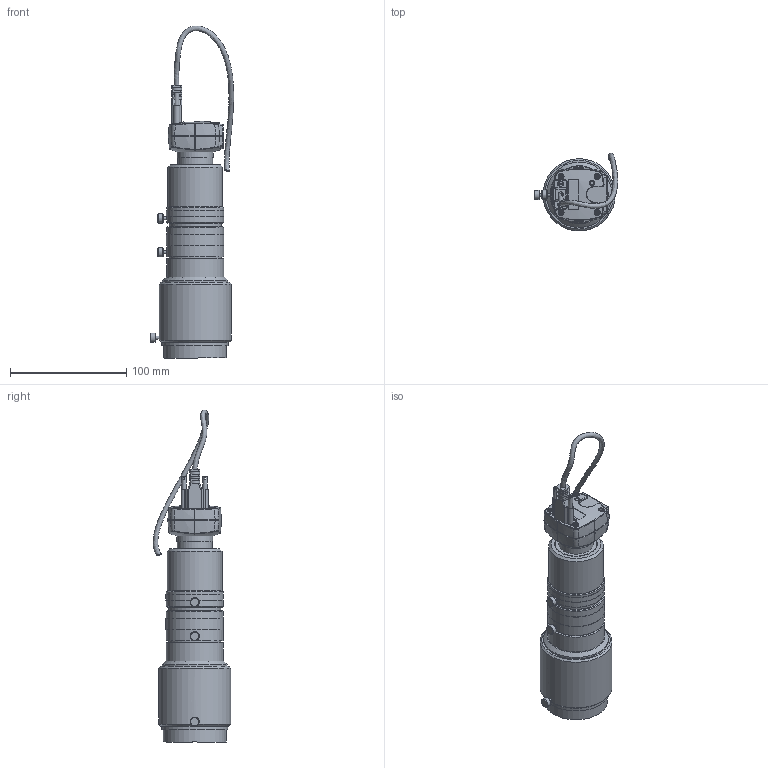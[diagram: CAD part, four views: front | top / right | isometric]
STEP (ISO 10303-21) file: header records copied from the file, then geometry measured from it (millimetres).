
FILE_DESCRIPTION(/* description */ (''),/* implementation_level */ '2;1');
FILE_NAME(/* name */ '\\SERVEUR-09\Entreprise\Bureau-Technique\Produits Web\videos\optiques\MA730-Z6-020.stp',/* time_stamp */ '2018-10-01T15:16:35+02:00',/* author */ ('ms'),/* organization */ ('Marcel Aubert'),/* preprocessor_version */ 'ST-DEVELOPER v17',/* originating_system */ 'Autodesk Inventor 2019',/* authorisation */ '');
FILE_SCHEMA (('AUTOMOTIVE_DESIGN { 1 0 10303 214 3 1 1 }'));
Length unit declared in the file: millimetre
Products named in the file (1): Pièce2
Bounding box: 71.58 x 66.65 x 285.3 mm (x, y, z)
Volume: 417833.1 mm3; surface area: 50165.5 mm2
Topology: 1 solids, 8 shells, 650 faces, 1757 edges, 1179 vertices
Faces by surface type: plane 232, cylinder 198, bspline 125, torus 39, cone 37, sphere 19
Full cylindrical faces by diameter (mm): 1.88 x4, 2 x2, 2.3 x2, 2.5 x2, 2.7 x3, 3 x1, 3.2 x1, 3.5 x4, 3.9 x2, 7.1 x2, 7.4 x2, 8 x3, 8.6 x3, 16.3 x1, 22.5 x1, 24.4 x1, 24.605 x2, 29.9 x1, 31 x1, 35.8 x1, 36.4 x1, 44.8 x2, 47 x1, 48 x1, 48.9 x5, 49.4 x2, 53.9 x1, 56.2 x1, 57 x1, 62 x1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
Entity records: 43524 total; most frequent: CARTESIAN_POINT 27051, ORIENTED_EDGE 3506, DIRECTION 3027, EDGE_CURVE 1753, AXIS2_PLACEMENT_3D 1221, VERTEX_POINT 1179, EDGE_LOOP 718, STYLED_ITEM 651
